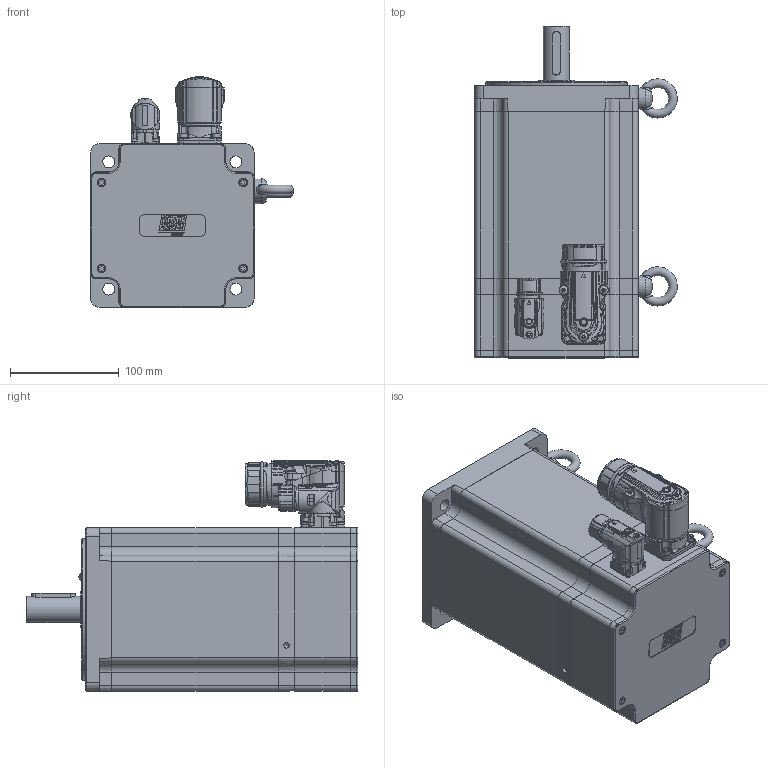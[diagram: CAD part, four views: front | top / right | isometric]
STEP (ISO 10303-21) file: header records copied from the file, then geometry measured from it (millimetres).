
FILE_DESCRIPTION(/* description */ ('Unknown'),/* implementation_level */ '2;1');
FILE_NAME(/* name */ 'TC4-150.6B.xx.x.3.A1.0.x.G3.00.00 Q0B754',/* time_stamp */ '2026-03-06T14:29:47+01:00',/* author */ ('Unknown'),/* organization */ ('Unknown'),/* preprocessor_version */ 'ST-DEVELOPER v19.4',/* originating_system */ 'Solid Edge',/* authorisation */ 'Unknown');
FILE_SCHEMA (('AUTOMOTIVE_DESIGN {1 0 10303 214 3 1 1}'));
Products named in the file (16): Q0B754 6B M1 VUOTO; 003003200179; 003155002229; 005113000600; 005321000040; 005911000252; 003103040237; 007117000452; 003151003170; 005911000205; Coperchio campana TC4-150; 007117000454; 005119002043; 003251040619; 005911000185; 005911000223
Assembly tree (28 placements, depth 2):
  Q0B754 6B M1 VUOTO
    003003200179
    003155002229
    005113000600
    005321000040  x2
    005911000252  x4
    003103040237
    007117000452
    003151003170
    005911000205  x4
    Coperchio campana TC4-150
    007117000454
    005119002043
    003251040619
    005911000185  x4
    005911000223  x4
Bounding box: 185.95 x 304.5 x 211.45 mm (x, y, z)
Volume: 2160360.7 mm3; surface area: 544631.8 mm2
Topology: 29 solids, 30 shells, 3328 faces, 8201 edges, 5083 vertices
Faces by surface type: plane 1219, bspline 690, cylinder 685, cone 316, torus 298, sphere 120
Full cylindrical faces by diameter (mm): 0.5 x1, 1 x17, 1.2 x17, 2 x4, 2.013 x4, 2.459 x2, 2.5 x4, 3 x5, 3.2 x1, 3.242 x12, 3.6 x5, 4 x11, 4.134 x16, 4.2 x1, 4.5 x9, 4.7 x4, 4.917 x6, 5 x6, 5.4 x1, 5.5 x9, 5.9 x1, 6 x3, 6.647 x2, 7 x8, 8 x11, 8.4 x1, 8.5 x4, 9 x4, 10 x5, 11 x4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
Entity records: 151044 total; most frequent: CARTESIAN_POINT 63420, ORIENTED_EDGE 14204, DIRECTION 11859, EDGE_CURVE 7102, VERTEX_POINT 4677, AXIS2_PLACEMENT_3D 4638, FACE_BOUND 3935, EDGE_LOOP 3915
